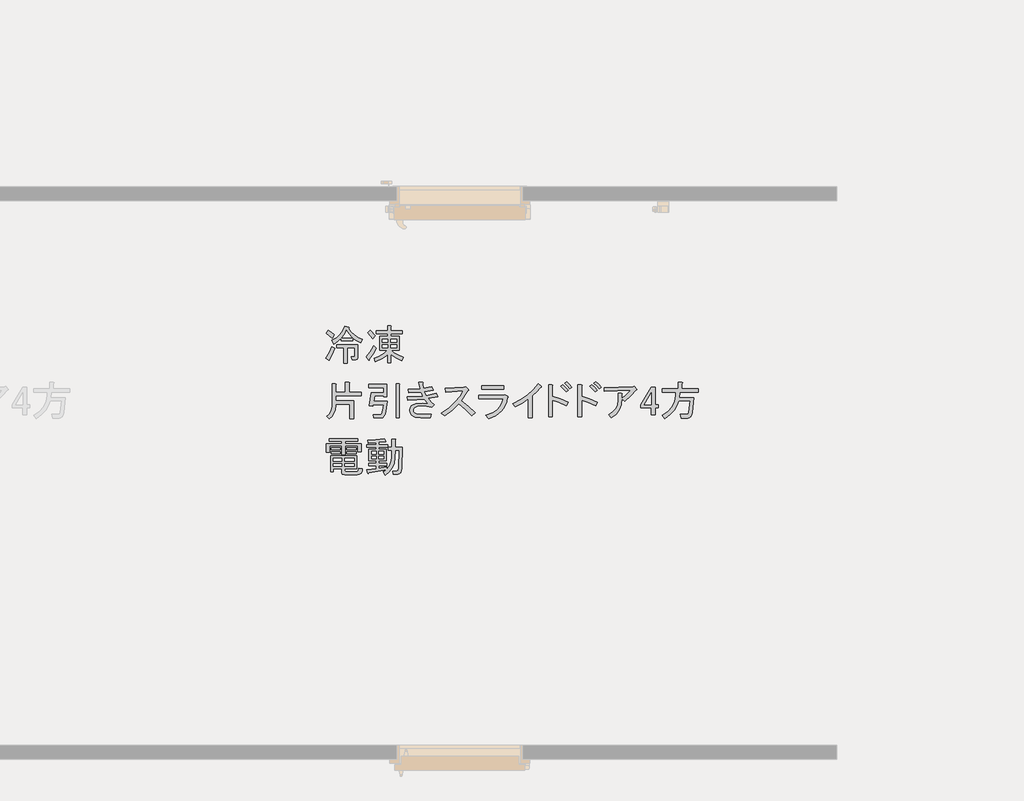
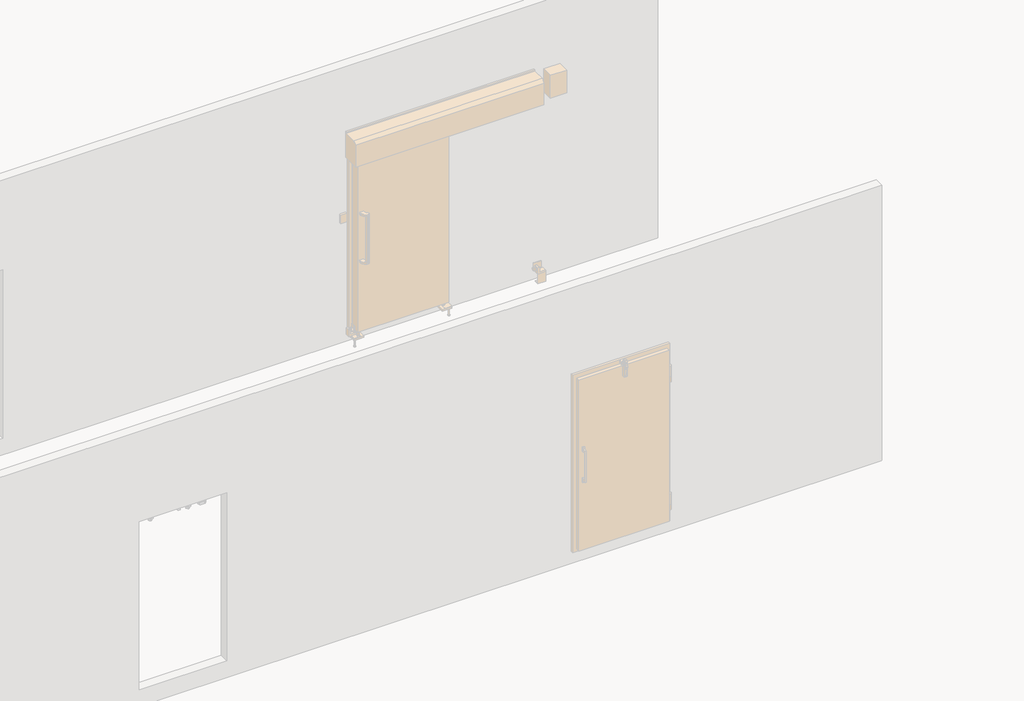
# One storey, part 101 of 117: 1 proxy.
"""IFC4 building model written with IfcOpenShell, lengths in millimetres."""

from ifc_helpers import new_model, si_unit, frame, origin, place, context, project, spatial, polyline, outline, extrude, element, save

model = new_model("IFC4")

# Units and contexts
model_context = context("Model", 3, world=origin())
ifc_project = project(units=[si_unit("LENGTHUNIT", "METRE", prefix="MILLI")], contexts=[model_context])

# Site, building, storey
site = spatial("IfcSite", under=ifc_project)
building = spatial("IfcBuilding", under=site)
storey = spatial("IfcBuildingStorey", under=building, Name="レベル 1", Elevation=500.0)

# Proxy
placement = place(None, origin())
element("IfcBuildingElementProxy", 1, Name="200㎜\u3000MS Pゴシック", ObjectType="200㎜\u3000MS Pゴシック", at=placement, inside=storey, context=model_context, shape_type="SweptSolid", body=[
    extrude(outline(polyline([(19483.6029468, 22948.5050774), (19517.2964447, 22967.9021871), (19543.6621457, 22991.6097656), (19562.7000496, 23019.6278129), (19574.4101566, 23051.9563291), (19605.4455321, 23043.9101206), (19606.882355, 23040.174381), (19601.997157, 23038.1628289), (19620.8195376, 23010.6476696), (19643.9523869, 22987.874026), (19671.3957051, 22969.8418981), (19703.149492, 22956.5512859), (19691.6549085, 22932.4126605), (19662.6310851, 22945.9187961), (19633.0325326, 22965.7469527), (19633.0325326, 22946.2061607), (19550.2715312, 22946.2061607), (19550.2715312, 22964.5974943), (19525.8455412, 22942.7577856), (19496.2469887, 22923.2169937), (19483.6029468, 22948.5050774)]), holes=[polyline([(19630.7336159, 22968.0458694), (19604.5834383, 22995.3455052), (19588.2036568, 23022.0704119), (19574.4101566, 22993.0465885), (19553.7199063, 22968.0458694), (19630.7336159, 22968.0458694)])]), frame((0.0, 0.0, 500.0), z_axis=(0.0, 0.0, 1.0), x_axis=(1.0, 0.0, 0.0)), (0.0, 0.0, 1.0), 25.0),
    extrude(outline(polyline([(19441.0729878, 22822.0646587), (19464.0621548, 22861.7209718), (19482.4534884, 22904.82566), (19503.1437388, 22892.1816181), (19485.6144989, 22848.2148362), (19467.5105299, 22812.8689919), (19466.9358007, 22806.5469709), (19462.9126965, 22805.9722417), (19441.0729878, 22822.0646587)])), frame((0.0, 0.0, 500.0), z_axis=(0.0, 0.0, 1.0), x_axis=(1.0, 0.0, 0.0)), (0.0, 0.0, 1.0), 25.0),
    extrude(outline(polyline([(19520.3856141, 22897.9289099), (19520.3856141, 22919.7686186), (19669.8151998, 22919.7686186), (19669.8151998, 22825.5130337), (19665.7920956, 22814.3058148), (19653.7227829, 22810.5700752), (19628.4346991, 22810.5700752), (19623.8368657, 22832.4097838), (19642.2281994, 22832.4097838), (19645.6765744, 22833.5592422), (19646.8260328, 22837.0076172), (19646.8260328, 22897.9289099), (19592.8014902, 22897.9289099), (19592.8014902, 22786.4314498), (19569.8123232, 22786.4314498), (19569.8123232, 22897.9289099), (19520.3856141, 22897.9289099)])), frame((0.0, 0.0, 500.0), z_axis=(0.0, 0.0, 1.0), x_axis=(1.0, 0.0, 0.0)), (0.0, 0.0, 1.0), 25.0),
    extrude(outline(polyline([(19458.314863, 23022.0704119), (19479.0051134, 23009.1390055), (19501.9942804, 22988.7361197), (19485.9018635, 22965.7469527), (19444.5213628, 23000.2307032), (19458.314863, 23022.0704119)])), frame((0.0, 0.0, 500.0), z_axis=(0.0, 0.0, 1.0), x_axis=(1.0, 0.0, 0.0)), (0.0, 0.0, 1.0), 25.0),
    extrude(outline(polyline([(19752.5762012, 22812.8689919), (19752.8635658, 22808.2711584), (19749.1278261, 22808.2711584), (19729.5870341, 22832.4097838), (19758.0361283, 22868.9050865), (19783.6115767, 22911.7224101), (19802.0029103, 22894.4805349), (19778.7263787, 22852.2379404), (19752.5762012, 22812.8689919)])), frame((0.0, 0.0, 500.0), z_axis=(0.0, 0.0, 1.0), x_axis=(1.0, 0.0, 0.0)), (0.0, 0.0, 1.0), 25.0),
    extrude(outline(polyline([(19759.4729513, 23022.0704119), (19796.2556185, 22981.8393696), (19775.5653682, 22962.2985776), (19739.9321593, 23004.8285366), (19759.4729513, 23022.0704119)])), frame((0.0, 0.0, 500.0), z_axis=(0.0, 0.0, 1.0), x_axis=(1.0, 0.0, 0.0)), (0.0, 0.0, 1.0), 25.0),
    extrude(outline(polyline([(19906.6036203, 22787.5809081), (19883.6144533, 22787.5809081), (19883.6144533, 22849.6516591), (19869.0307005, 22835.4989532), (19849.4180673, 22821.7772941), (19795.1061602, 22795.6271166), (19785.9104934, 22822.0646587), (19815.5090459, 22832.9126719), (19841.0844943, 22845.9159195), (19862.6368384, 22861.0744015), (19880.1660782, 22878.3881179), (19824.9920773, 22878.3881179), (19824.9920773, 22977.2415362), (19883.6144533, 22977.2415362), (19883.6144533, 22996.7823282), (19803.1523687, 22996.7823282), (19803.1523687, 23018.6220369), (19883.6144533, 23018.6220369), (19883.6144533, 23053.1057874), (19905.454162, 23053.1057874), (19910.33936, 23050.8068707), (19906.6036203, 23046.2090373), (19906.6036203, 23018.6220369), (19987.065705, 23018.6220369), (19987.065705, 22996.7823282), (19906.6036203, 22996.7823282), (19906.6036203, 22977.2415362), (19966.3754546, 22977.2415362), (19966.3754546, 22878.3881179), (19907.7530787, 22878.3881179), (19926.1444123, 22862.295701), (19946.8346627, 22848.5022008), (19995.1119134, 22827.8119504), (19984.7667883, 22802.5238667), (19941.6621001, 22823.5014816), (19906.6036203, 22849.6516591), (19906.6036203, 22787.5809081)]), holes=[polyline([(19906.6036203, 22937.0104939), (19946.8346627, 22937.0104939), (19946.8346627, 22958.8502026), (19906.6036203, 22958.8502026), (19906.6036203, 22937.0104939)]), polyline([(19906.6036203, 22896.7794516), (19946.8346627, 22896.7794516), (19946.8346627, 22918.6191602), (19906.6036203, 22918.6191602), (19906.6036203, 22896.7794516)]), polyline([(19844.5328693, 22896.7794516), (19883.6144533, 22896.7794516), (19883.6144533, 22918.6191602), (19844.5328693, 22918.6191602), (19844.5328693, 22896.7794516)]), polyline([(19844.5328693, 22937.0104939), (19883.6144533, 22937.0104939), (19883.6144533, 22958.8502026), (19844.5328693, 22958.8502026), (19844.5328693, 22937.0104939)])]), frame((0.0, 0.0, 500.0), z_axis=(0.0, 0.0, 1.0), x_axis=(1.0, 0.0, 0.0)), (0.0, 0.0, 1.0), 25.0),
    extrude(outline(polyline([(19508.8910305, 22637.0133705), (19514.9256869, 22633.5649954), (19510.0404889, 22627.8177037), (19510.0404889, 22579.5404529), (19581.3069067, 22579.5404529), (19581.3069067, 22648.507954), (19606.5949905, 22648.507954), (19612.6296468, 22645.059579), (19607.7444488, 22639.3122872), (19607.7444488, 22579.5404529), (19692.8043669, 22579.5404529), (19692.8043669, 22554.2523692), (19510.0404889, 22554.2523692), (19510.0404889, 22517.4697019), (19639.9292827, 22517.4697019), (19639.9292827, 22388.7303665), (19613.4917406, 22388.7303665), (19613.4917406, 22492.1816181), (19510.0404889, 22492.1816181), (19510.0404889, 22480.6870346), (19507.3105253, 22453.7466045), (19499.1206345, 22429.2487734), (19485.4708166, 22407.1935412), (19466.3610715, 22387.5809081), (19447.9697379, 22405.9722417), (19465.0679309, 22421.5617706), (19477.2809259, 22439.5938985), (19484.6087228, 22460.0686254), (19487.0513218, 22482.9859513), (19487.0513218, 22637.0133705), (19508.8910305, 22637.0133705)])), frame((0.0, 0.0, 500.0), z_axis=(0.0, 0.0, 1.0), x_axis=(1.0, 0.0, 0.0)), (0.0, 0.0, 1.0), 25.0),
    extrude(outline(polyline([(19966.3754546, 22396.7765749), (19943.3862876, 22396.7765749), (19943.3862876, 22637.0133705), (19965.2259963, 22637.0133705), (19970.1111943, 22634.7144538), (19966.3754546, 22630.1166204), (19966.3754546, 22396.7765749)])), frame((0.0, 0.0, 500.0), z_axis=(0.0, 0.0, 1.0), x_axis=(1.0, 0.0, 0.0)), (0.0, 0.0, 1.0), 25.0),
    extrude(outline(polyline([(19880.1660782, 22511.7224101), (19870.9704114, 22441.8928152), (19864.6483905, 22419.2628539), (19857.1769112, 22404.8227834), (19846.5444214, 22397.0639395), (19830.7393691, 22394.4776582), (19784.761035, 22394.4776582), (19781.31266, 22416.3173669), (19823.842619, 22416.3173669), (19834.4751088, 22418.328919), (19841.0844943, 22424.3635754), (19849.1307027, 22448.2148362), (19854.8779945, 22489.8827014), (19777.8642849, 22489.8827014), (19775.5653682, 22478.3881179), (19751.4267428, 22481.836493), (19767.5191597, 22574.9426195), (19853.7285361, 22574.9426195), (19853.7285361, 22611.7252868), (19747.9783678, 22611.7252868), (19747.9783678, 22633.5649954), (19876.7177032, 22633.5649954), (19876.7177032, 22547.355619), (19853.7285361, 22547.355619), (19853.7285361, 22553.1029108), (19789.3588684, 22553.1029108), (19782.4621183, 22511.7224101), (19880.1660782, 22511.7224101)])), frame((0.0, 0.0, 500.0), z_axis=(0.0, 0.0, 1.0), x_axis=(1.0, 0.0, 0.0)), (0.0, 0.0, 1.0), 25.0),
    extrude(outline(polyline([(20146.8404159, 22582.988828), (20160.6339161, 22554.2523692), (20233.0497923, 22570.3447861), (20243.3949175, 22546.2061607), (20173.277958, 22533.5621188), (20193.1061146, 22511.147681), (20218.1068337, 22489.8827014), (20198.5660418, 22470.3419095), (20161.4960099, 22477.2386596), (20133.0469157, 22479.5375763), (20095.1147901, 22476.0892012), (20082.1833836, 22471.7787324), (20073.2750814, 22465.7440761), (20067.240425, 22457.410503), (20065.2288729, 22448.5022008), (20066.9530605, 22438.1570756), (20072.125623, 22430.1108671), (20089.6548629, 22423.214117), (20123.8512489, 22420.9152003), (20193.9682084, 22420.9152003), (20189.3703749, 22395.6271166), (20119.2534155, 22395.6271166), (20080.1718315, 22400.22495), (20065.8036021, 22405.9722417), (20054.8837478, 22414.0184502), (20044.5386226, 22429.8235025), (20041.0902475, 22449.6516591), (20044.251258, 22465.7440761), (20053.7342894, 22479.5375763), (20066.0909667, 22488.0866728), (20083.6202066, 22494.1931703), (20134.196374, 22499.0783683), (20175.5768747, 22495.6299932), (20146.8404159, 22528.9642854), (20090.2295921, 22523.7917228), (20028.4462057, 22522.0675353), (20024.9978306, 22546.2061607), (20081.896019, 22546.7808899), (20135.3458324, 22550.8039941), (20122.7017905, 22579.5404529), (20034.1934974, 22576.0920778), (20031.8945807, 22599.0812449), (20116.9544988, 22601.3801616), (20107.7588319, 22648.507954), (20133.0469157, 22648.507954), (20139.081572, 22645.059579), (20134.196374, 22639.3122872), (20139.9436658, 22604.8285366), (20200.8649585, 22616.3231202), (20208.9111669, 22593.3339531), (20146.8404159, 22582.988828)])), frame((0.0, 0.0, 500.0), z_axis=(0.0, 0.0, 1.0), x_axis=(1.0, 0.0, 0.0)), (0.0, 0.0, 1.0), 25.0),
    extrude(outline(polyline([(20411.2618152, 22517.4697019), (20460.4011598, 22476.6639304), (20508.9657751, 22430.1108671), (20485.9766081, 22410.5700752), (20438.5614511, 22457.1231384), (20392.8704816, 22495.6299932), (20344.8805954, 22449.9390237), (20290.5686883, 22409.4206168), (20268.7289796, 22428.9614088), (20324.1903451, 22468.6177219), (20368.7318562, 22508.2740351), (20402.353513, 22547.9303482), (20425.0553154, 22587.5866614), (20299.7643551, 22579.5404529), (20296.31598, 22607.1274534), (20429.6531489, 22612.8747451), (20443.4466491, 22616.3231202), (20461.8379827, 22597.9317865), (20464.7116286, 22591.322401), (20457.2401493, 22587.5866614), (20411.2618152, 22517.4697019)])), frame((0.0, 0.0, 500.0), z_axis=(0.0, 0.0, 1.0), x_axis=(1.0, 0.0, 0.0)), (0.0, 0.0, 1.0), 25.0),
    extrude(outline(polyline([(20715.1786035, 22597.9317865), (20556.5533509, 22597.9317865), (20556.5533509, 22623.2198703), (20715.1786035, 22623.2198703), (20715.1786035, 22597.9317865)])), frame((0.0, 0.0, 500.0), z_axis=(0.0, 0.0, 1.0), x_axis=(1.0, 0.0, 0.0)), (0.0, 0.0, 1.0), 25.0),
    extrude(outline(polyline([(20585.2898097, 22411.7195335), (20634.9320423, 22430.039026), (20655.1732855, 22442.1622195), (20672.3612799, 22456.2610446), (20686.4960256, 22472.3355013), (20697.5775225, 22490.3855895), (20705.6057707, 22510.4113092), (20710.5807701, 22532.4126605), (20535.8631006, 22532.4126605), (20535.8631006, 22557.7007442), (20711.7302284, 22557.7007442), (20722.0753536, 22561.1491193), (20742.765604, 22548.5050774), (20745.6392498, 22543.0451502), (20740.4666872, 22538.1599522), (20734.3422295, 22510.6807135), (20725.1645229, 22485.7159149), (20712.9335677, 22463.2655565), (20697.6493636, 22443.3296382), (20679.3119109, 22425.90816), (20657.9212093, 22411.001122), (20633.4772591, 22398.6085242), (20605.9800601, 22388.7303665), (20585.2898097, 22411.7195335)])), frame((0.0, 0.0, 500.0), z_axis=(0.0, 0.0, 1.0), x_axis=(1.0, 0.0, 0.0)), (0.0, 0.0, 1.0), 25.0),
    extrude(outline(polyline([(20777.6631595, 22496.7794516), (20834.3458245, 22524.6538166), (20883.7006925, 22557.7007442), (20925.7277635, 22595.9202344), (20960.4270375, 22639.3122872), (20982.2667462, 22620.9209536), (20984.8530275, 22614.8862972), (20974.2205377, 22610.5758284), (20949.2198186, 22581.552005), (20917.8970785, 22551.9534525), (20917.8970785, 22395.6271166), (20891.4595364, 22395.6271166), (20891.4595364, 22530.1137438), (20847.780119, 22500.5151912), (20797.2039515, 22473.7902845), (20777.6631595, 22496.7794516)])), frame((0.0, 0.0, 500.0), z_axis=(0.0, 0.0, 1.0), x_axis=(1.0, 0.0, 0.0)), (0.0, 0.0, 1.0), 25.0),
    extrude(outline(polyline([(21162.6397508, 22480.6870346), (21107.1783853, 22506.5498475), (21062.6368742, 22522.0675353), (21062.6368742, 22402.5238667), (21036.1993321, 22402.5238667), (21036.1993321, 22632.4155371), (21059.1884991, 22632.4155371), (21066.947343, 22629.5418912), (21062.6368742, 22623.2198703), (21062.6368742, 22550.8039941), (21119.247698, 22531.8379313), (21176.433251, 22507.1245767), (21162.6397508, 22480.6870346)])), frame((0.0, 0.0, 500.0), z_axis=(0.0, 0.0, 1.0), x_axis=(1.0, 0.0, 0.0)), (0.0, 0.0, 1.0), 25.0),
    extrude(outline(polyline([(21160.3408341, 22581.8393696), (21140.8000421, 22603.6790783), (21121.2592501, 22620.9209536), (21136.2022087, 22632.4155371), (21155.7430007, 22615.1736618), (21175.2837927, 22593.3339531), (21160.3408341, 22581.8393696)])), frame((0.0, 0.0, 500.0), z_axis=(0.0, 0.0, 1.0), x_axis=(1.0, 0.0, 0.0)), (0.0, 0.0, 1.0), 25.0),
    extrude(outline(polyline([(21187.9278345, 22603.6790783), (21170.9733238, 22622.9325057), (21149.9957089, 22641.6112039), (21164.9386675, 22653.1057874), (21184.1920949, 22636.7260059), (21202.8707931, 22615.1736618), (21187.9278345, 22603.6790783)])), frame((0.0, 0.0, 500.0), z_axis=(0.0, 0.0, 1.0), x_axis=(1.0, 0.0, 0.0)), (0.0, 0.0, 1.0), 25.0),
    extrude(outline(polyline([(21371.5653009, 22480.6870346), (21316.1039354, 22506.5498475), (21271.5624242, 22522.0675353), (21271.5624242, 22402.5238667), (21245.1248821, 22402.5238667), (21245.1248821, 22632.4155371), (21268.1140492, 22632.4155371), (21275.872893, 22629.5418912), (21271.5624242, 22623.2198703), (21271.5624242, 22550.8039941), (21328.1732481, 22531.8379313), (21385.3588011, 22507.1245767), (21371.5653009, 22480.6870346)])), frame((0.0, 0.0, 500.0), z_axis=(0.0, 0.0, 1.0), x_axis=(1.0, 0.0, 0.0)), (0.0, 0.0, 1.0), 25.0),
    extrude(outline(polyline([(21369.2663841, 22581.8393696), (21349.7255922, 22603.6790783), (21330.1848002, 22620.9209536), (21345.1277588, 22632.4155371), (21364.6685507, 22615.1736618), (21384.2093427, 22593.3339531), (21369.2663841, 22581.8393696)])), frame((0.0, 0.0, 500.0), z_axis=(0.0, 0.0, 1.0), x_axis=(1.0, 0.0, 0.0)), (0.0, 0.0, 1.0), 25.0),
    extrude(outline(polyline([(21396.8533846, 22603.6790783), (21379.8988739, 22622.9325057), (21358.921259, 22641.6112039), (21373.8642176, 22653.1057874), (21393.117645, 22636.7260059), (21411.7963432, 22615.1736618), (21396.8533846, 22603.6790783)])), frame((0.0, 0.0, 500.0), z_axis=(0.0, 0.0, 1.0), x_axis=(1.0, 0.0, 0.0)), (0.0, 0.0, 1.0), 25.0),
    extrude(outline(polyline([(21559.8006006, 22530.1137438), (21555.9930198, 22488.8769254), (21542.2713607, 22452.525305), (21518.6356234, 22421.0588826), (21485.0858077, 22394.4776582), (21465.5450157, 22416.3173669), (21495.2154094, 22436.5765704), (21516.4085478, 22460.5715135), (21529.1244308, 22488.3021962), (21533.3630585, 22519.7686186), (21533.3630585, 22569.1953277), (21557.5016839, 22569.1953277), (21563.2489756, 22566.6090464), (21559.8006006, 22561.1491193), (21559.8006006, 22531.2632021), (21596.2959033, 22562.011213), (21623.0208099, 22592.1844948), (21435.6590986, 22585.2877447), (21433.3601819, 22611.7252868), (21642.5616019, 22617.4725785), (21650.6078104, 22619.7714952), (21667.8496857, 22599.0812449), (21668.1370503, 22595.9202344), (21662.1023939, 22595.6328698), (21624.1702683, 22552.240817), (21579.3413926, 22511.7224101), (21559.8006006, 22530.1137438)])), frame((0.0, 0.0, 500.0), z_axis=(0.0, 0.0, 1.0), x_axis=(1.0, 0.0, 0.0)), (0.0, 0.0, 1.0), 25.0),
    extrude(outline(polyline([(21771.7607207, 22615.1736618), (21798.1982628, 22615.1736618), (21798.1982628, 22488.7332431), (21822.3368882, 22488.7332431), (21822.3368882, 22466.8935344), (21798.1982628, 22466.8935344), (21798.1982628, 22416.3173669), (21771.7607207, 22416.3173669), (21771.7607207, 22466.8935344), (21694.7470111, 22466.8935344), (21694.7470111, 22489.8827014), (21771.7607207, 22615.1736618)]), holes=[polyline([(21771.7607207, 22572.6437028), (21720.0350949, 22488.7332431), (21771.7607207, 22488.7332431), (21771.7607207, 22572.6437028)])]), frame((0.0, 0.0, 500.0), z_axis=(0.0, 0.0, 1.0), x_axis=(1.0, 0.0, 0.0)), (0.0, 0.0, 1.0), 25.0),
    extrude(outline(polyline([(21969.4675573, 22538.1599522), (22076.367184, 22538.1599522), (22064.8726005, 22434.7087005), (22061.0650197, 22416.6047315), (22054.2401107, 22403.673325), (22044.3978736, 22395.9144812), (22031.5383083, 22393.3281999), (21985.5599742, 22393.3281999), (21979.8126824, 22418.6162836), (22029.2393916, 22418.6162836), (22035.8487771, 22422.9267524), (22039.5845167, 22435.8581589), (22048.7801835, 22516.3202435), (21966.0191822, 22516.3202435), (21954.2372341, 22480.8307169), (21933.8343483, 22447.9274716), (21904.8105249, 22417.6105076), (21867.1657639, 22389.8798248), (21851.073347, 22414.0184502), (21890.657819, 22440.2404689), (21919.7534835, 22472.9281908), (21938.3603406, 22512.0816159), (21946.4783902, 22557.7007442), (21947.6278486, 22578.3909946), (21851.073347, 22578.3909946), (21851.073347, 22603.6790783), (21963.7202655, 22603.6790783), (21963.7202655, 22649.6574124), (21989.0083492, 22649.6574124), (21995.0430056, 22646.2090373), (21990.1578076, 22640.4617456), (21990.1578076, 22603.6790783), (22106.2531011, 22603.6790783), (22106.2531011, 22578.3909946), (21974.0653907, 22578.3909946), (21969.4675573, 22538.1599522)])), frame((0.0, 0.0, 500.0), z_axis=(0.0, 0.0, 1.0), x_axis=(1.0, 0.0, 0.0)), (0.0, 0.0, 1.0), 25.0),
    extrude(outline(polyline([(19481.3040301, 22165.7469527), (19481.3040301, 22179.5404529), (19544.5242394, 22179.5404529), (19544.5242394, 22165.7469527), (19481.3040301, 22165.7469527)])), frame((0.0, 0.0, 500.0), z_axis=(0.0, 0.0, 1.0), x_axis=(1.0, 0.0, 0.0)), (0.0, 0.0, 1.0), 25.0),
    extrude(outline(polyline([(19544.5242394, 22138.1599522), (19481.3040301, 22138.1599522), (19481.3040301, 22151.9534525), (19544.5242394, 22151.9534525), (19544.5242394, 22138.1599522)])), frame((0.0, 0.0, 500.0), z_axis=(0.0, 0.0, 1.0), x_axis=(1.0, 0.0, 0.0)), (0.0, 0.0, 1.0), 25.0),
    extrude(outline(polyline([(19591.6520319, 22138.1599522), (19591.6520319, 22151.9534525), (19658.3206163, 22151.9534525), (19658.3206163, 22138.1599522), (19591.6520319, 22138.1599522)])), frame((0.0, 0.0, 500.0), z_axis=(0.0, 0.0, 1.0), x_axis=(1.0, 0.0, 0.0)), (0.0, 0.0, 1.0), 25.0),
    extrude(outline(polyline([(19591.6520319, 22165.7469527), (19591.6520319, 22179.5404529), (19658.3206163, 22179.5404529), (19658.3206163, 22165.7469527), (19591.6520319, 22165.7469527)])), frame((0.0, 0.0, 500.0), z_axis=(0.0, 0.0, 1.0), x_axis=(1.0, 0.0, 0.0)), (0.0, 0.0, 1.0), 25.0),
    extrude(outline(polyline([(19670.9646582, 22226.6682453), (19579.00799, 22226.6682453), (19579.00799, 22208.2769117), (19693.9538252, 22208.2769117), (19693.9538252, 22153.1029108), (19670.9646582, 22153.1029108), (19670.9646582, 22194.4834115), (19579.00799, 22194.4834115), (19579.00799, 22128.9642854), (19556.018823, 22128.9642854), (19556.018823, 22194.4834115), (19467.5105299, 22194.4834115), (19467.5105299, 22148.5050774), (19444.5213628, 22148.5050774), (19444.5213628, 22208.2769117), (19556.018823, 22208.2769117), (19556.018823, 22226.6682453), (19464.0621548, 22226.6682453), (19464.0621548, 22245.059579), (19670.9646582, 22245.059579), (19670.9646582, 22226.6682453)])), frame((0.0, 0.0, 500.0), z_axis=(0.0, 0.0, 1.0), x_axis=(1.0, 0.0, 0.0)), (0.0, 0.0, 1.0), 25.0),
    extrude(outline(polyline([(19703.149492, 22030.1108671), (19700.3476873, 22011.5040101), (19693.0917314, 21998.2133979), (19681.3816245, 21990.2390306), (19665.2173664, 21987.5809081), (19575.559615, 21987.5809081), (19560.0419272, 21992.4661061), (19556.1625053, 21998.5726036), (19554.8693646, 22007.1217001), (19554.8693646, 22028.9614088), (19495.0975303, 22028.9614088), (19495.0975303, 22009.4206168), (19475.5567383, 22009.4206168), (19475.5567383, 22122.0675353), (19662.9184497, 22122.0675353), (19662.9184497, 22028.9614088), (19577.8585317, 22028.9614088), (19577.8585317, 22018.6162836), (19579.8700838, 22011.7195335), (19585.9047401, 22009.4206168), (19661.7689914, 22009.4206168), (19668.3783769, 22011.001122), (19673.2635749, 22015.7426377), (19677.8614083, 22034.7087005), (19703.149492, 22030.1108671)]), holes=[polyline([(19495.0975303, 22047.3527424), (19554.8693646, 22047.3527424), (19554.8693646, 22066.8935344), (19495.0975303, 22066.8935344), (19495.0975303, 22047.3527424)]), polyline([(19495.0975303, 22085.284868), (19554.8693646, 22085.284868), (19554.8693646, 22103.6762017), (19495.0975303, 22103.6762017), (19495.0975303, 22085.284868)]), polyline([(19577.8585317, 22047.3527424), (19643.3776577, 22047.3527424), (19643.3776577, 22066.8935344), (19577.8585317, 22066.8935344), (19577.8585317, 22047.3527424)]), polyline([(19577.8585317, 22085.284868), (19643.3776577, 22085.284868), (19643.3776577, 22103.6762017), (19577.8585317, 22103.6762017), (19577.8585317, 22085.284868)])]), frame((0.0, 0.0, 500.0), z_axis=(0.0, 0.0, 1.0), x_axis=(1.0, 0.0, 0.0)), (0.0, 0.0, 1.0), 25.0),
    extrude(outline(polyline([(19851.4296194, 22007.1217001), (19875.5682448, 22024.3635754), (19746.8289094, 22000.22495), (19744.8173573, 21995.339752), (19741.0816176, 21996.7765749), (19734.1848675, 22022.0646587), (19800.853452, 22030.1108671), (19800.853452, 22050.8011175), (19746.8289094, 22050.8011175), (19746.8289094, 22069.1924511), (19800.853452, 22069.1924511), (19800.853452, 22086.4343264), (19774.4159099, 22086.4343264), (19749.1278261, 22086.4343264), (19749.1278261, 22168.0458694), (19800.853452, 22168.0458694), (19800.853452, 22184.1382863), (19734.1848675, 22184.1382863), (19734.1848675, 22202.5296199), (19800.853452, 22202.5296199), (19800.853452, 22216.3231202), (19743.3805344, 22214.0242035), (19739.9321593, 22233.5649954), (19798.2671707, 22236.7260059), (19860.6252863, 22246.2090373), (19870.9704114, 22226.6682453), (19870.9704114, 22222.6451411), (19864.0736613, 22224.3693286), (19820.3942439, 22218.6220369), (19820.3942439, 22202.5296199), (19883.6144533, 22202.5296199), (19883.6144533, 22184.1382863), (19820.3942439, 22184.1382863), (19820.3942439, 22168.0458694), (19873.2693281, 22168.0458694), (19873.2693281, 22086.4343264), (19820.3942439, 22086.4343264), (19820.3942439, 22069.1924511), (19877.8671615, 22069.1924511), (19877.8671615, 22050.8011175), (19820.3942439, 22050.8011175), (19820.3942439, 22033.5592422), (19877.8671615, 22042.754909), (19877.8671615, 22026.6624921), (19892.5227555, 22043.5451616), (19903.1552453, 22064.3072531), (19909.7646308, 22088.9487665), (19912.3509121, 22117.4697019), (19913.5003705, 22162.2985776), (19885.91337, 22162.2985776), (19885.91337, 22184.1382863), (19913.5003705, 22184.1382863), (19913.5003705, 22242.7606623), (19935.3400791, 22242.7606623), (19940.2252771, 22240.4617456), (19936.4895375, 22235.8639122), (19936.4895375, 22184.1382863), (19987.065705, 22184.1382863), (19984.7667883, 22032.4097838), (19982.4678716, 22014.3058148), (19976.7205798, 22001.3744083), (19967.524913, 21993.6155645), (19954.8808711, 21991.0292832), (19923.8454956, 21991.0292832), (19920.3971206, 22012.8689919), (19946.8346627, 22012.8689919), (19952.9411602, 22014.3776559), (19957.4671524, 22018.9036482), (19961.7776212, 22037.0076172), (19965.2259963, 22162.2985776), (19936.4895375, 22162.2985776), (19935.3400791, 22108.2740351), (19930.5267223, 22070.8447975), (19917.2361101, 22037.869711), (19895.4682426, 22009.3487757), (19865.2231197, 21985.2819914), (19851.4296194, 22007.1217001)]), holes=[polyline([(19820.3942439, 22120.9180769), (19820.3942439, 22100.2278266), (19853.7285361, 22100.2278266), (19853.7285361, 22120.9180769), (19820.3942439, 22120.9180769)]), polyline([(19820.3942439, 22154.2523692), (19820.3942439, 22134.7115772), (19853.7285361, 22134.7115772), (19853.7285361, 22154.2523692), (19820.3942439, 22154.2523692)]), polyline([(19768.6686181, 22120.9180769), (19768.6686181, 22100.2278266), (19800.853452, 22100.2278266), (19800.853452, 22120.9180769), (19768.6686181, 22120.9180769)]), polyline([(19768.6686181, 22154.2523692), (19768.6686181, 22134.7115772), (19800.853452, 22134.7115772), (19800.853452, 22154.2523692), (19768.6686181, 22154.2523692)])]), frame((0.0, 0.0, 500.0), z_axis=(0.0, 0.0, 1.0), x_axis=(1.0, 0.0, 0.0)), (0.0, 0.0, 1.0), 25.0),
])

save(model, "model.ifc")
